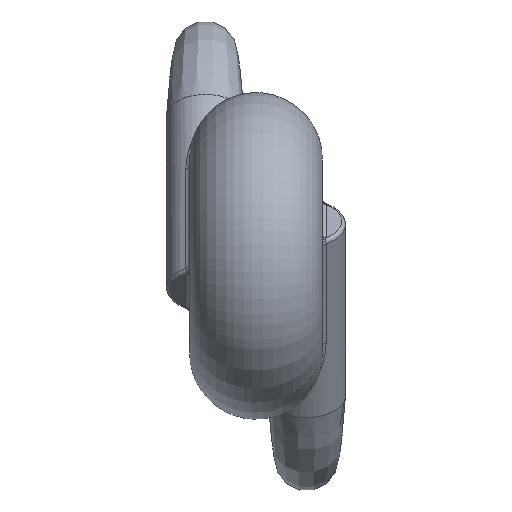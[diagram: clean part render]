
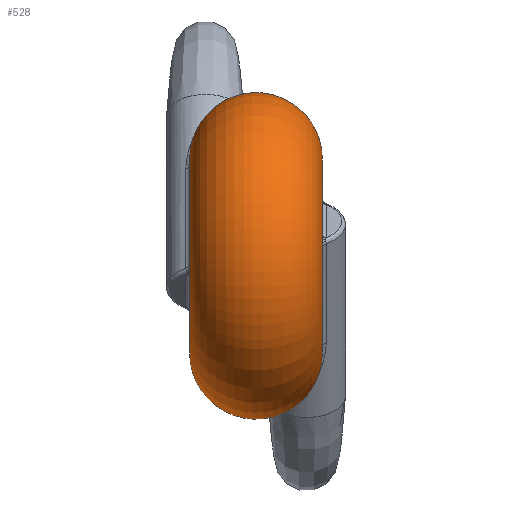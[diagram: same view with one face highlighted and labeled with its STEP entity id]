
A CAD part, left-side view. The second image highlights one B-rep face of the part: STEP entity #528.
In plain terms, the highlighted toroidal (fillet/blend) face has major radius 2.495 mm and minor radius 1.705 mm.
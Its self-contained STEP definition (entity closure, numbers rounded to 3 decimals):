
#20=TOROIDAL_SURFACE('',#582,2.495,1.705);
#77=B_SPLINE_CURVE_WITH_KNOTS('',3,(#1764,#1765,#1766,#1767,#1768,#1769,
#1770,#1771,#1772,#1773,#1774,#1775,#1776,#1777,#1778),.UNSPECIFIED.,.F.,
 .F.,(4,1,1,1,1,1,1,1,1,1,1,1,4),(-0.74,-0.687,
-0.634,-0.528,-0.476,-0.423,
-0.37,-0.317,-0.264,-0.211,
-0.106,-0.053,0.),.UNSPECIFIED.);
#78=B_SPLINE_CURVE_WITH_KNOTS('',3,(#1784,#1785,#1786,#1787,#1788,#1789,
#1790,#1791,#1792,#1793,#1794,#1795,#1796,#1797,#1798,#1799),
 .UNSPECIFIED.,.F.,.F.,(4,1,1,1,1,1,1,1,1,1,1,1,1,4),(-0.74,
-0.687,-0.634,-0.528,-0.476,
-0.423,-0.37,-0.317,-0.264,
-0.211,-0.159,-0.106,-0.079,
0.),.UNSPECIFIED.);
#95=FACE_BOUND('',#167,.T.);
#125=FACE_OUTER_BOUND('',#166,.T.);
#166=EDGE_LOOP('',(#417,#418));
#167=EDGE_LOOP('',(#419,#420));
#205=CIRCLE('',#583,2.495);
#206=CIRCLE('',#584,2.495);
#245=VERTEX_POINT('',#1684);
#246=VERTEX_POINT('',#1762);
#247=VERTEX_POINT('',#1782);
#248=VERTEX_POINT('',#1783);
#308=EDGE_CURVE('',#246,#245,#77,.T.);
#310=EDGE_CURVE('',#247,#248,#78,.T.);
#311=EDGE_CURVE('',#247,#248,#205,.T.);
#312=EDGE_CURVE('',#246,#245,#206,.T.);
#417=ORIENTED_EDGE('',*,*,#310,.T.);
#418=ORIENTED_EDGE('',*,*,#311,.F.);
#419=ORIENTED_EDGE('',*,*,#308,.T.);
#420=ORIENTED_EDGE('',*,*,#312,.F.);
#528=ADVANCED_FACE('',(#125,#95),#20,.T.);
#582=AXIS2_PLACEMENT_3D('',#1781,#693,#694);
#583=AXIS2_PLACEMENT_3D('',#1800,#695,#696);
#584=AXIS2_PLACEMENT_3D('',#1801,#697,#698);
#693=DIRECTION('center_axis',(0.,1.,0.));
#694=DIRECTION('ref_axis',(1.,0.,0.));
#695=DIRECTION('center_axis',(0.,-1.,0.));
#696=DIRECTION('ref_axis',(-1.,0.,0.));
#697=DIRECTION('center_axis',(0.,1.,0.));
#698=DIRECTION('ref_axis',(-1.,0.,0.));
#1684=CARTESIAN_POINT('',(0.891,2.6,2.331));
#1762=CARTESIAN_POINT('',(2.359,2.6,0.814));
#1764=CARTESIAN_POINT('Ctrl Pts',(2.359,2.6,0.814));
#1765=CARTESIAN_POINT('Ctrl Pts',(2.446,2.6,0.953));
#1766=CARTESIAN_POINT('Ctrl Pts',(2.636,2.57,1.216));
#1767=CARTESIAN_POINT('Ctrl Pts',(3.052,2.354,1.653));
#1768=CARTESIAN_POINT('Ctrl Pts',(3.375,1.903,2.011));
#1769=CARTESIAN_POINT('Ctrl Pts',(3.354,1.397,2.432));
#1770=CARTESIAN_POINT('Ctrl Pts',(3.152,1.094,2.778));
#1771=CARTESIAN_POINT('Ctrl Pts',(2.809,0.953,3.135));
#1772=CARTESIAN_POINT('Ctrl Pts',(2.405,1.022,3.452));
#1773=CARTESIAN_POINT('Ctrl Pts',(2.019,1.287,3.65));
#1774=CARTESIAN_POINT('Ctrl Pts',(1.606,1.81,3.654));
#1775=CARTESIAN_POINT('Ctrl Pts',(1.382,2.306,3.264));
#1776=CARTESIAN_POINT('Ctrl Pts',(1.149,2.556,2.73));
#1777=CARTESIAN_POINT('Ctrl Pts',(0.985,2.6,2.458));
#1778=CARTESIAN_POINT('Ctrl Pts',(0.891,2.6,2.331));
#1781=CARTESIAN_POINT('Origin',(0.,0.895,0.));
#1782=CARTESIAN_POINT('',(2.359,-0.81,-0.814));
#1783=CARTESIAN_POINT('',(0.891,-0.81,-2.331));
#1784=CARTESIAN_POINT('Ctrl Pts',(2.359,-0.81,-0.814));
#1785=CARTESIAN_POINT('Ctrl Pts',(2.446,-0.81,-0.953));
#1786=CARTESIAN_POINT('Ctrl Pts',(2.636,-0.78,-1.216));
#1787=CARTESIAN_POINT('Ctrl Pts',(3.052,-0.564,-1.653));
#1788=CARTESIAN_POINT('Ctrl Pts',(3.375,-0.113,-2.011));
#1789=CARTESIAN_POINT('Ctrl Pts',(3.354,0.393,-2.432));
#1790=CARTESIAN_POINT('Ctrl Pts',(3.152,0.696,-2.778));
#1791=CARTESIAN_POINT('Ctrl Pts',(2.809,0.837,-3.135));
#1792=CARTESIAN_POINT('Ctrl Pts',(2.405,0.769,-3.452));
#1793=CARTESIAN_POINT('Ctrl Pts',(2.019,0.502,-3.65));
#1794=CARTESIAN_POINT('Ctrl Pts',(1.71,0.113,-3.653));
#1795=CARTESIAN_POINT('Ctrl Pts',(1.493,-0.273,-3.459));
#1796=CARTESIAN_POINT('Ctrl Pts',(1.352,-0.526,-3.185));
#1797=CARTESIAN_POINT('Ctrl Pts',(1.179,-0.745,-2.803));
#1798=CARTESIAN_POINT('Ctrl Pts',(1.033,-0.81,-2.522));
#1799=CARTESIAN_POINT('Ctrl Pts',(0.891,-0.81,-2.331));
#1800=CARTESIAN_POINT('Origin',(0.,-0.81,0.));
#1801=CARTESIAN_POINT('Origin',(0.,2.6,0.));
